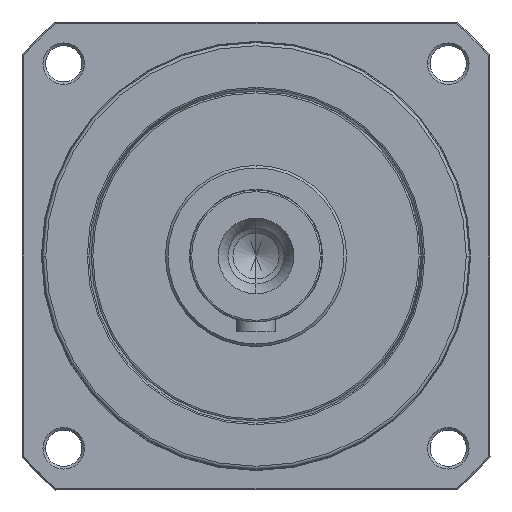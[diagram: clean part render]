
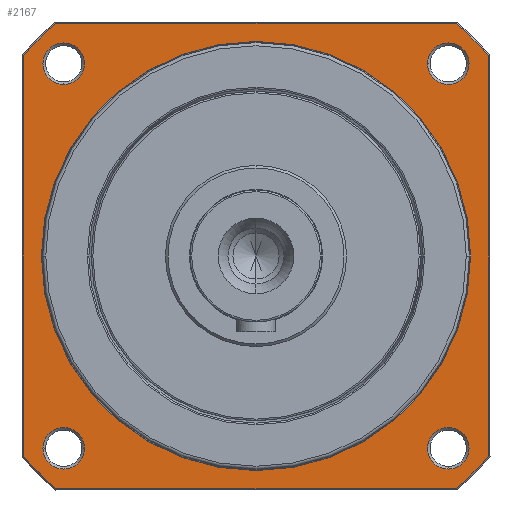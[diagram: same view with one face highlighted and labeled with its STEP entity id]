
A CAD part, left-side view. The second image highlights one B-rep face of the part: STEP entity #2167.
In plain terms, the highlighted planar face has unit normal (-1, 0, 0).
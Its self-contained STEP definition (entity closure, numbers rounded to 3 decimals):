
#525=CARTESIAN_POINT('',(12.5,58.336,-58.336));
#526=DIRECTION('',(1.,0.,0.));
#527=DIRECTION('',(0.,-1.,0.));
#528=AXIS2_PLACEMENT_3D('',#525,#526,#527);
#530=CARTESIAN_POINT('',(12.5,58.336,-58.336));
#531=DIRECTION('',(1.,0.,0.));
#532=DIRECTION('',(0.,1.,0.));
#533=AXIS2_PLACEMENT_3D('',#530,#531,#532);
#535=CARTESIAN_POINT('',(12.5,58.336,58.336));
#536=DIRECTION('',(1.,0.,0.));
#537=DIRECTION('',(0.,0.,-1.));
#538=AXIS2_PLACEMENT_3D('',#535,#536,#537);
#540=CARTESIAN_POINT('',(12.5,58.336,58.336));
#541=DIRECTION('',(1.,0.,0.));
#542=DIRECTION('',(0.,0.,1.));
#543=AXIS2_PLACEMENT_3D('',#540,#541,#542);
#545=CARTESIAN_POINT('',(12.5,-58.336,58.336));
#546=DIRECTION('',(1.,0.,0.));
#547=DIRECTION('',(0.,1.,0.));
#548=AXIS2_PLACEMENT_3D('',#545,#546,#547);
#550=CARTESIAN_POINT('',(12.5,-58.336,58.336));
#551=DIRECTION('',(1.,0.,0.));
#552=DIRECTION('',(0.,-1.,0.));
#553=AXIS2_PLACEMENT_3D('',#550,#551,#552);
#555=CARTESIAN_POINT('',(12.5,-58.336,-58.336));
#556=DIRECTION('',(1.,0.,0.));
#557=DIRECTION('',(0.,0.,1.));
#558=AXIS2_PLACEMENT_3D('',#555,#556,#557);
#560=CARTESIAN_POINT('',(12.5,-58.336,-58.336));
#561=DIRECTION('',(1.,0.,0.));
#562=DIRECTION('',(0.,0.,-1.));
#563=AXIS2_PLACEMENT_3D('',#560,#561,#562);
#565=CARTESIAN_POINT('',(12.5,0.,0.));
#566=DIRECTION('',(-1.,0.,0.));
#567=DIRECTION('',(0.,1.,0.));
#568=AXIS2_PLACEMENT_3D('',#565,#566,#567);
#570=CARTESIAN_POINT('',(12.5,0.,0.));
#571=DIRECTION('',(-1.,0.,0.));
#572=DIRECTION('',(0.,-1.,0.));
#573=AXIS2_PLACEMENT_3D('',#570,#571,#572);
#575=CARTESIAN_POINT('',(12.5,0.,0.));
#576=DIRECTION('',(-1.,0.,0.));
#577=DIRECTION('',(0.,0.758,-0.652));
#578=AXIS2_PLACEMENT_3D('',#575,#576,#577);
#580=DIRECTION('',(0.,0.,-1.));
#581=VECTOR('',#580,121.38);
#582=CARTESIAN_POINT('',(12.5,70.6,60.69));
#583=LINE('',#582,#581);
#584=CARTESIAN_POINT('',(12.5,0.,0.));
#585=DIRECTION('',(-1.,0.,0.));
#586=DIRECTION('',(0.,0.652,0.758));
#587=AXIS2_PLACEMENT_3D('',#584,#585,#586);
#589=DIRECTION('',(0.,1.,0.));
#590=VECTOR('',#589,121.38);
#591=CARTESIAN_POINT('',(12.5,-60.69,70.6));
#592=LINE('',#591,#590);
#593=CARTESIAN_POINT('',(12.5,0.,0.));
#594=DIRECTION('',(-1.,0.,0.));
#595=DIRECTION('',(0.,-0.758,0.652));
#596=AXIS2_PLACEMENT_3D('',#593,#594,#595);
#598=DIRECTION('',(0.,0.,1.));
#599=VECTOR('',#598,121.38);
#600=CARTESIAN_POINT('',(12.5,-70.6,-60.69));
#601=LINE('',#600,#599);
#602=CARTESIAN_POINT('',(12.5,0.,0.));
#603=DIRECTION('',(-1.,0.,0.));
#604=DIRECTION('',(0.,-0.652,-0.758));
#605=AXIS2_PLACEMENT_3D('',#602,#603,#604);
#607=DIRECTION('',(0.,-1.,0.));
#608=VECTOR('',#607,121.38);
#609=CARTESIAN_POINT('',(12.5,60.69,-70.6));
#610=LINE('',#609,#608);
#1165=CARTESIAN_POINT('',(12.5,52.036,-58.336));
#1166=CARTESIAN_POINT('',(12.5,64.636,-58.336));
#1167=VERTEX_POINT('',#1165);
#1168=VERTEX_POINT('',#1166);
#1181=CARTESIAN_POINT('',(12.5,58.336,52.036));
#1182=CARTESIAN_POINT('',(12.5,58.336,64.636));
#1183=VERTEX_POINT('',#1181);
#1184=VERTEX_POINT('',#1182);
#1197=CARTESIAN_POINT('',(12.5,-52.036,58.336));
#1198=CARTESIAN_POINT('',(12.5,-64.636,58.336));
#1199=VERTEX_POINT('',#1197);
#1200=VERTEX_POINT('',#1198);
#1213=CARTESIAN_POINT('',(12.5,-58.336,
-52.036));
#1214=CARTESIAN_POINT('',(12.5,-58.336,
-64.636));
#1215=VERTEX_POINT('',#1213);
#1216=VERTEX_POINT('',#1214);
#1297=CARTESIAN_POINT('',(12.5,70.6,-60.69));
#1298=CARTESIAN_POINT('',(12.5,60.69,-70.6));
#1299=VERTEX_POINT('',#1297);
#1300=VERTEX_POINT('',#1298);
#1301=CARTESIAN_POINT('',(12.5,-60.69,
-70.6));
#1302=VERTEX_POINT('',#1301);
#1307=CARTESIAN_POINT('',(12.5,-70.6,-60.69));
#1308=VERTEX_POINT('',#1307);
#1309=CARTESIAN_POINT('',(12.5,-70.6,60.69));
#1310=VERTEX_POINT('',#1309);
#1315=CARTESIAN_POINT('',(12.5,-60.69,70.6));
#1316=VERTEX_POINT('',#1315);
#1317=CARTESIAN_POINT('',(12.5,60.69,70.6));
#1318=VERTEX_POINT('',#1317);
#1323=CARTESIAN_POINT('',(12.5,70.6,60.69));
#1324=VERTEX_POINT('',#1323);
#1333=CARTESIAN_POINT('',(12.5,65.1,0.));
#1334=CARTESIAN_POINT('',(12.5,-65.1,0.));
#1335=VERTEX_POINT('',#1333);
#1336=VERTEX_POINT('',#1334);
#2115=CARTESIAN_POINT('',(12.5,0.,0.));
#2116=DIRECTION('',(1.,0.,0.));
#2117=DIRECTION('',(0.,-1.,0.));
#2118=AXIS2_PLACEMENT_3D('',#2115,#2116,#2117);
#2119=PLANE('',#2118);
#2121=ORIENTED_EDGE('',*,*,#2120,.F.);
#2123=ORIENTED_EDGE('',*,*,#2122,.F.);
#2125=ORIENTED_EDGE('',*,*,#2124,.F.);
#2127=ORIENTED_EDGE('',*,*,#2126,.F.);
#2129=ORIENTED_EDGE('',*,*,#2128,.F.);
#2131=ORIENTED_EDGE('',*,*,#2130,.F.);
#2133=ORIENTED_EDGE('',*,*,#2132,.F.);
#2135=ORIENTED_EDGE('',*,*,#2134,.F.);
#2136=EDGE_LOOP('',(#2121,#2123,#2125,#2127,#2129,#2131,#2133,#2135));
#2137=FACE_OUTER_BOUND('',#2136,.F.);
#2138=ORIENTED_EDGE('',*,*,#2105,.F.);
#2140=ORIENTED_EDGE('',*,*,#2139,.F.);
#2141=EDGE_LOOP('',(#2138,#2140));
#2142=FACE_BOUND('',#2141,.F.);
#2144=ORIENTED_EDGE('',*,*,#2143,.F.);
#2146=ORIENTED_EDGE('',*,*,#2145,.F.);
#2147=EDGE_LOOP('',(#2144,#2146));
#2148=FACE_BOUND('',#2147,.F.);
#2150=ORIENTED_EDGE('',*,*,#2149,.F.);
#2152=ORIENTED_EDGE('',*,*,#2151,.F.);
#2153=EDGE_LOOP('',(#2150,#2152));
#2154=FACE_BOUND('',#2153,.F.);
#2156=ORIENTED_EDGE('',*,*,#2155,.F.);
#2158=ORIENTED_EDGE('',*,*,#2157,.F.);
#2159=EDGE_LOOP('',(#2156,#2158));
#2160=FACE_BOUND('',#2159,.F.);
#2162=ORIENTED_EDGE('',*,*,#2161,.T.);
#2164=ORIENTED_EDGE('',*,*,#2163,.T.);
#2165=EDGE_LOOP('',(#2162,#2164));
#2166=FACE_BOUND('',#2165,.F.);
#2167=ADVANCED_FACE('',(#2137,#2142,#2148,#2154,#2160,#2166),#2119,.F.);
#529=CIRCLE('',#528,6.3);
#534=CIRCLE('',#533,6.3);
#539=CIRCLE('',#538,6.3);
#544=CIRCLE('',#543,6.3);
#549=CIRCLE('',#548,6.3);
#554=CIRCLE('',#553,6.3);
#559=CIRCLE('',#558,6.3);
#564=CIRCLE('',#563,6.3);
#569=CIRCLE('',#568,65.1);
#574=CIRCLE('',#573,65.1);
#579=CIRCLE('',#578,93.1);
#588=CIRCLE('',#587,93.1);
#597=CIRCLE('',#596,93.1);
#606=CIRCLE('',#605,93.1);
#2105=EDGE_CURVE('',#1167,#1168,#529,.T.);
#2120=EDGE_CURVE('',#1299,#1300,#579,.T.);
#2122=EDGE_CURVE('',#1324,#1299,#583,.T.);
#2124=EDGE_CURVE('',#1318,#1324,#588,.T.);
#2126=EDGE_CURVE('',#1316,#1318,#592,.T.);
#2128=EDGE_CURVE('',#1310,#1316,#597,.T.);
#2130=EDGE_CURVE('',#1308,#1310,#601,.T.);
#2132=EDGE_CURVE('',#1302,#1308,#606,.T.);
#2134=EDGE_CURVE('',#1300,#1302,#610,.T.);
#2139=EDGE_CURVE('',#1168,#1167,#534,.T.);
#2143=EDGE_CURVE('',#1183,#1184,#539,.T.);
#2145=EDGE_CURVE('',#1184,#1183,#544,.T.);
#2149=EDGE_CURVE('',#1199,#1200,#549,.T.);
#2151=EDGE_CURVE('',#1200,#1199,#554,.T.);
#2155=EDGE_CURVE('',#1215,#1216,#559,.T.);
#2157=EDGE_CURVE('',#1216,#1215,#564,.T.);
#2161=EDGE_CURVE('',#1335,#1336,#569,.T.);
#2163=EDGE_CURVE('',#1336,#1335,#574,.T.);
